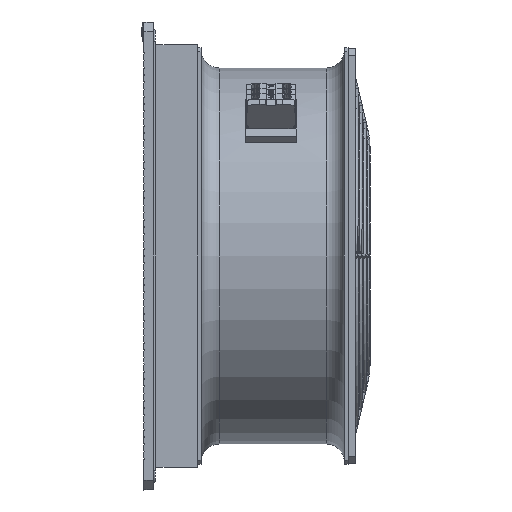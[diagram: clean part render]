
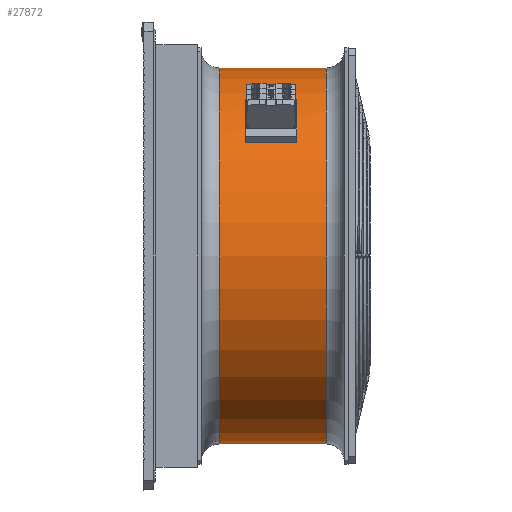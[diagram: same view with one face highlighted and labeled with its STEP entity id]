
A CAD part, left-side view. The second image highlights one B-rep face of the part: STEP entity #27872.
In plain terms, the highlighted cylindrical face has radius 128.5 mm (diameter 257 mm), a partial arc.
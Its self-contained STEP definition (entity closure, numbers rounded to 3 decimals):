
#22901 = DIRECTION ( 'NONE',  ( 0., 0., 1. ) ) ;
#22904 = DIRECTION ( 'NONE',  ( 0., 1., 0. ) ) ;
#22906 = CARTESIAN_POINT ( 'NONE',  ( 0., 88., 0. ) ) ;
#22908 = AXIS2_PLACEMENT_3D ( 'NONE', #22906, #22904, #22901 ) ;
#22909 = CIRCLE ( 'NONE', #22908, 128.5 ) ;
#22916 = DIRECTION ( 'NONE',  ( 0., 1., 0. ) ) ;
#22918 = VECTOR ( 'NONE', #22916, 1000. ) ;
#22921 = CARTESIAN_POINT ( 'NONE',  ( 0., 20.505, 128.5 ) ) ;
#22923 = LINE ( 'NONE', #22921, #22918 ) ;
#23246 = DIRECTION ( 'NONE',  ( 0., 1., 0. ) ) ;
#23247 = VECTOR ( 'NONE', #23246, 1000. ) ;
#23248 = CARTESIAN_POINT ( 'NONE',  ( 0., 20.505, -128.5 ) ) ;
#23250 = LINE ( 'NONE', #23248, #23247 ) ;
#25290 = ORIENTED_EDGE ( 'NONE', *, *, #26177, .T. ) ;
#25303 = ORIENTED_EDGE ( 'NONE', *, *, #25750, .T. ) ;
#25750 = EDGE_CURVE ( 'NONE', #56512, #26256, #76545, .T. ) ;
#26177 = EDGE_CURVE ( 'NONE', #26256, #47617, #78464, .T. ) ;
#26229 = EDGE_LOOP ( 'NONE', ( #47580, #73994, #30466, #30483 ) ) ;
#26256 = VERTEX_POINT ( 'NONE', #78514 ) ;
#27872 = ADVANCED_FACE ( 'NONE', ( #78592, #78591 ), #78590, .T. ) ;
#28054 = ORIENTED_EDGE ( 'NONE', *, *, #47647, .T. ) ;
#29565 = EDGE_LOOP ( 'NONE', ( #28054, #47611, #25303, #25290 ) ) ;
#30462 = EDGE_CURVE ( 'NONE', #80527, #45055, #22923, .T. ) ;
#30465 = EDGE_CURVE ( 'NONE', #45055, #45106, #22909, .T. ) ;
#30466 = ORIENTED_EDGE ( 'NONE', *, *, #30465, .F. ) ;
#30483 = ORIENTED_EDGE ( 'NONE', *, *, #30462, .F. ) ;
#32475 = EDGE_CURVE ( 'NONE', #80542, #45106, #23250, .T. ) ;
#34880 = CARTESIAN_POINT ( 'NONE',  ( 0., 88., 128.5 ) ) ;
#34990 = CARTESIAN_POINT ( 'NONE',  ( 0., 88., -128.5 ) ) ;
#36956 = CARTESIAN_POINT ( 'NONE',  ( 77.642, 33., 102.391 ) ) ;
#36962 = CARTESIAN_POINT ( 'NONE',  ( 102.391, 33., 77.642 ) ) ;
#37007 = DIRECTION ( 'NONE',  ( 0., 1., 0. ) ) ;
#37008 = VECTOR ( 'NONE', #37007, 1000. ) ;
#37009 = CARTESIAN_POINT ( 'NONE',  ( 77.642, 20.505, 102.391 ) ) ;
#37010 = LINE ( 'NONE', #37009, #37008 ) ;
#37052 = DIRECTION ( 'NONE',  ( 0., 0., -1. ) ) ;
#37053 = DIRECTION ( 'NONE',  ( 0., -1., 0. ) ) ;
#37054 = CARTESIAN_POINT ( 'NONE',  ( 0., 33., 0. ) ) ;
#37055 = AXIS2_PLACEMENT_3D ( 'NONE', #37054, #37053, #37052 ) ;
#37056 = CIRCLE ( 'NONE', #37055, 128.5 ) ;
#45055 = VERTEX_POINT ( 'NONE', #34880 ) ;
#45106 = VERTEX_POINT ( 'NONE', #34990 ) ;
#47580 = ORIENTED_EDGE ( 'NONE', *, *, #71578, .T. ) ;
#47611 = ORIENTED_EDGE ( 'NONE', *, *, #47642, .T. ) ;
#47617 = VERTEX_POINT ( 'NONE', #36962 ) ;
#47621 = VERTEX_POINT ( 'NONE', #36956 ) ;
#47642 = EDGE_CURVE ( 'NONE', #47621, #56512, #37010, .T. ) ;
#47647 = EDGE_CURVE ( 'NONE', #47617, #47621, #37056, .T. ) ;
#56512 = VERTEX_POINT ( 'NONE', #62942 ) ;
#57947 = CARTESIAN_POINT ( 'NONE',  ( 0., 15., -128.5 ) ) ;
#57964 = CARTESIAN_POINT ( 'NONE',  ( 0., 15., 128.5 ) ) ;
#62942 = CARTESIAN_POINT ( 'NONE',  ( 77.642, 68., 102.391 ) ) ;
#65984 = DIRECTION ( 'NONE',  ( 0., 0., 1. ) ) ;
#65985 = DIRECTION ( 'NONE',  ( 0., 1., 0. ) ) ;
#65987 = CARTESIAN_POINT ( 'NONE',  ( 0., 15., 0. ) ) ;
#65988 = AXIS2_PLACEMENT_3D ( 'NONE', #65987, #65985, #65984 ) ;
#65997 = CIRCLE ( 'NONE', #65988, 128.5 ) ;
#71578 = EDGE_CURVE ( 'NONE', #80527, #80542, #65997, .T. ) ;
#73994 = ORIENTED_EDGE ( 'NONE', *, *, #32475, .T. ) ;
#76453 = CARTESIAN_POINT ( 'NONE',  ( 0., 68., 0. ) ) ;
#76540 = DIRECTION ( 'NONE',  ( 0., 0., 1. ) ) ;
#76541 = DIRECTION ( 'NONE',  ( 0., 1., 0. ) ) ;
#76543 = AXIS2_PLACEMENT_3D ( 'NONE', #76453, #76541, #76540 ) ;
#76545 = CIRCLE ( 'NONE', #76543, 128.5 ) ;
#78461 = DIRECTION ( 'NONE',  ( 0., -1., 0. ) ) ;
#78462 = VECTOR ( 'NONE', #78461, 1000. ) ;
#78463 = CARTESIAN_POINT ( 'NONE',  ( 102.391, 20.505, 77.642 ) ) ;
#78464 = LINE ( 'NONE', #78463, #78462 ) ;
#78514 = CARTESIAN_POINT ( 'NONE',  ( 102.391, 68., 77.642 ) ) ;
#78584 = DIRECTION ( 'NONE',  ( 0., 0., 1. ) ) ;
#78585 = DIRECTION ( 'NONE',  ( 0., 1., 0. ) ) ;
#78586 = CARTESIAN_POINT ( 'NONE',  ( 0., 20.505, 0. ) ) ;
#78587 = AXIS2_PLACEMENT_3D ( 'NONE', #78586, #78585, #78584 ) ;
#78590 = CYLINDRICAL_SURFACE ( 'NONE', #78587, 128.5 ) ;
#78591 = FACE_OUTER_BOUND ( 'NONE', #26229, .T. ) ;
#78592 = FACE_BOUND ( 'NONE', #29565, .T. ) ;
#80527 = VERTEX_POINT ( 'NONE', #57964 ) ;
#80542 = VERTEX_POINT ( 'NONE', #57947 ) ;
